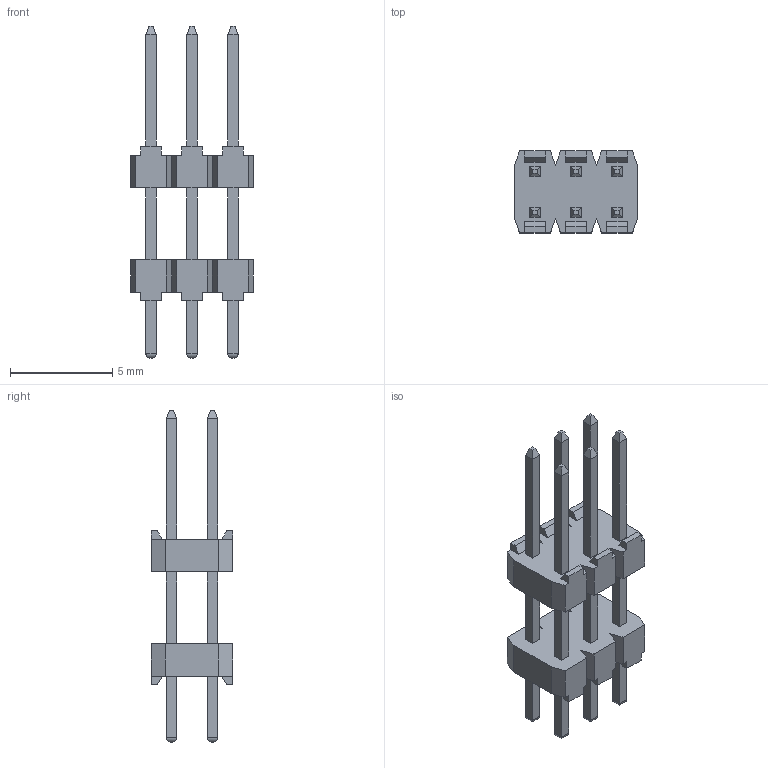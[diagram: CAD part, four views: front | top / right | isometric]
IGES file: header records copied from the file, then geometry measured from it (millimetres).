
Global section: file name: N:\GOLF_VI_2mm_UGII\9514XX_806XX06_AR\951406-8061506-AR.igs; native system: NX V3.0; preprocessor: UGS NX IGES V4.0; date: 20070314.100810; units: millimetre
Bounding box: 6 x 4 x 16.2 mm (x, y, z)
Surface area: 326.3 mm2 (no closed solid volume)
Topology: 0 solids, 0 shells, 224 faces, 1153 edges, 1153 vertices
Faces by surface type: bspline 224
